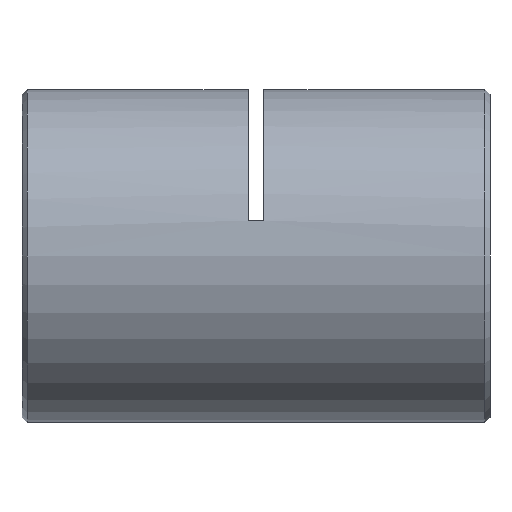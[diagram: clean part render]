
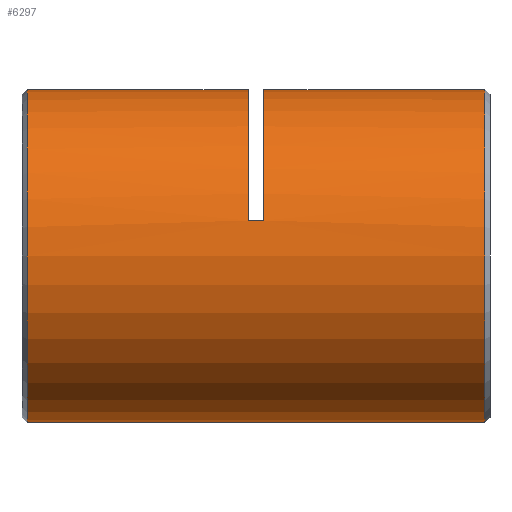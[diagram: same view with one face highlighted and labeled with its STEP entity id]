
A CAD part, left-side view. The second image highlights one B-rep face of the part: STEP entity #6297.
In plain terms, the highlighted cylindrical face has radius 16 mm (diameter 32 mm), a partial arc.
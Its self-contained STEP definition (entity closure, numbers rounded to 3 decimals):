
#151 = EDGE_CURVE ( 'NONE', #5103, #1813, #4168, .T. ) ;
#249 = CARTESIAN_POINT ( 'NONE',  ( 0., 0., 0. ) ) ;
#442 = CARTESIAN_POINT ( 'NONE',  ( 0., 23.5, 16. ) ) ;
#453 = VERTEX_POINT ( 'NONE', #442 ) ;
#506 = CARTESIAN_POINT ( 'NONE',  ( 0., 0.75, -16. ) ) ;
#583 = CIRCLE ( 'NONE', #5439, 16. ) ;
#605 = LINE ( 'NONE', #3590, #1595 ) ;
#627 = DIRECTION ( 'NONE',  ( 0., 1., 0. ) ) ;
#702 = DIRECTION ( 'NONE',  ( 0., 0., 1. ) ) ;
#848 = CARTESIAN_POINT ( 'NONE',  ( 0., 23.5, 0. ) ) ;
#896 = CARTESIAN_POINT ( 'NONE',  ( -15.632, 22.75, 3.413 ) ) ;
#911 = DIRECTION ( 'NONE',  ( 0., 1., 0. ) ) ;
#1147 = DIRECTION ( 'NONE',  ( 0., 1., 0. ) ) ;
#1291 = VERTEX_POINT ( 'NONE', #5494 ) ;
#1387 = CARTESIAN_POINT ( 'NONE',  ( 0., 44.75, 0. ) ) ;
#1479 = ORIENTED_EDGE ( 'NONE', *, *, #5361, .T. ) ;
#1595 = VECTOR ( 'NONE', #1147, 1000. ) ;
#1650 = ORIENTED_EDGE ( 'NONE', *, *, #151, .F. ) ;
#1656 = FACE_OUTER_BOUND ( 'NONE', #6313, .T. ) ;
#1680 = EDGE_CURVE ( 'NONE', #4956, #3396, #5550, .T. ) ;
#1729 = DIRECTION ( 'NONE',  ( 0., 1., 0. ) ) ;
#1730 = EDGE_CURVE ( 'NONE', #453, #1291, #2589, .T. ) ;
#1813 = VERTEX_POINT ( 'NONE', #2657 ) ;
#1837 = DIRECTION ( 'NONE',  ( 0., -1., 0. ) ) ;
#1846 = DIRECTION ( 'NONE',  ( 0., 1., 0. ) ) ;
#2051 = ORIENTED_EDGE ( 'NONE', *, *, #5823, .T. ) ;
#2141 = VERTEX_POINT ( 'NONE', #5320 ) ;
#2232 = DIRECTION ( 'NONE',  ( 0., 1., 0. ) ) ;
#2401 = VECTOR ( 'NONE', #4630, 1000. ) ;
#2470 = EDGE_CURVE ( 'NONE', #4956, #2141, #4361, .T. ) ;
#2589 = LINE ( 'NONE', #5182, #5329 ) ;
#2596 = CYLINDRICAL_SURFACE ( 'NONE', #5918, 16. ) ;
#2613 = CARTESIAN_POINT ( 'NONE',  ( 0., 0.75, 16. ) ) ;
#2657 = CARTESIAN_POINT ( 'NONE',  ( 0., 44.75, -16. ) ) ;
#3132 = ORIENTED_EDGE ( 'NONE', *, *, #1730, .T. ) ;
#3369 = VECTOR ( 'NONE', #4721, 1000. ) ;
#3396 = VERTEX_POINT ( 'NONE', #5004 ) ;
#3590 = CARTESIAN_POINT ( 'NONE',  ( 0., 0., 16. ) ) ;
#3618 = ORIENTED_EDGE ( 'NONE', *, *, #1680, .F. ) ;
#3631 = ORIENTED_EDGE ( 'NONE', *, *, #2470, .T. ) ;
#4089 = AXIS2_PLACEMENT_3D ( 'NONE', #1387, #1837, #5781 ) ;
#4132 = CARTESIAN_POINT ( 'NONE',  ( 0., 0., -16. ) ) ;
#4143 = CARTESIAN_POINT ( 'NONE',  ( 0., 22., 0. ) ) ;
#4168 = LINE ( 'NONE', #4132, #2401 ) ;
#4306 = CIRCLE ( 'NONE', #4515, 16. ) ;
#4350 = CARTESIAN_POINT ( 'NONE',  ( -15.632, 22., 3.413 ) ) ;
#4361 = LINE ( 'NONE', #896, #3369 ) ;
#4409 = CIRCLE ( 'NONE', #4089, 16. ) ;
#4515 = AXIS2_PLACEMENT_3D ( 'NONE', #5552, #911, #5372 ) ;
#4630 = DIRECTION ( 'NONE',  ( 0., 1., 0. ) ) ;
#4669 = EDGE_CURVE ( 'NONE', #5655, #3396, #605, .T. ) ;
#4717 = ORIENTED_EDGE ( 'NONE', *, *, #4669, .T. ) ;
#4721 = DIRECTION ( 'NONE',  ( 0., 1., 0. ) ) ;
#4956 = VERTEX_POINT ( 'NONE', #4350 ) ;
#5004 = CARTESIAN_POINT ( 'NONE',  ( 0., 22., 16. ) ) ;
#5103 = VERTEX_POINT ( 'NONE', #506 ) ;
#5182 = CARTESIAN_POINT ( 'NONE',  ( 0., 0., 16. ) ) ;
#5237 = AXIS2_PLACEMENT_3D ( 'NONE', #4143, #2232, #6088 ) ;
#5320 = CARTESIAN_POINT ( 'NONE',  ( -15.632, 23.5, 3.413 ) ) ;
#5329 = VECTOR ( 'NONE', #627, 1000. ) ;
#5361 = EDGE_CURVE ( 'NONE', #2141, #453, #583, .T. ) ;
#5372 = DIRECTION ( 'NONE',  ( 0., 0., 1. ) ) ;
#5439 = AXIS2_PLACEMENT_3D ( 'NONE', #848, #1846, #5731 ) ;
#5494 = CARTESIAN_POINT ( 'NONE',  ( 0., 44.75, 16. ) ) ;
#5550 = CIRCLE ( 'NONE', #5237, 16. ) ;
#5552 = CARTESIAN_POINT ( 'NONE',  ( 0., 0.75, 0. ) ) ;
#5655 = VERTEX_POINT ( 'NONE', #2613 ) ;
#5731 = DIRECTION ( 'NONE',  ( 0., 0., 1. ) ) ;
#5781 = DIRECTION ( 'NONE',  ( 0., 0., -1. ) ) ;
#5823 = EDGE_CURVE ( 'NONE', #1291, #1813, #4409, .T. ) ;
#5918 = AXIS2_PLACEMENT_3D ( 'NONE', #249, #1729, #702 ) ;
#5925 = ORIENTED_EDGE ( 'NONE', *, *, #5964, .T. ) ;
#5964 = EDGE_CURVE ( 'NONE', #5103, #5655, #4306, .T. ) ;
#6088 = DIRECTION ( 'NONE',  ( 0., 0., 1. ) ) ;
#6297 = ADVANCED_FACE ( 'NONE', ( #1656 ), #2596, .T. ) ;
#6313 = EDGE_LOOP ( 'NONE', ( #1650, #5925, #4717, #3618, #3631, #1479, #3132, #2051 ) ) ;
